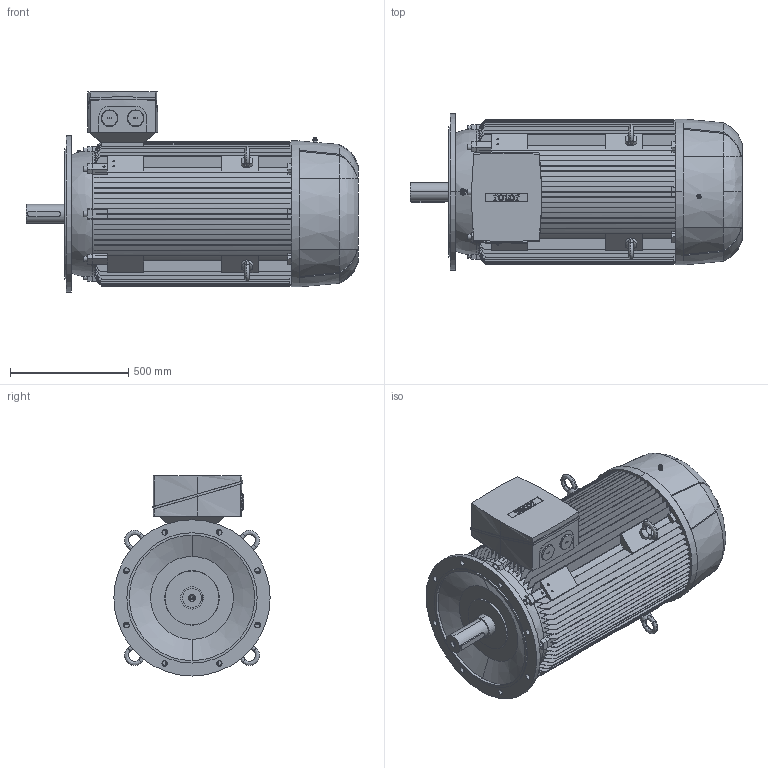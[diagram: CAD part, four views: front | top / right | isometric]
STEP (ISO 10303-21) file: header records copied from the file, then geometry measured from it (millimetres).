
FILE_DESCRIPTION (( 'STEP AP203' ), '1' );
FILE_NAME ('6RN315L06E16 IM3041.STEP', '2017-01-18T10:44:07', ( 'rotor' ), ( 'Hewlett-Packard Company' ), 'SwSTEP 2.0', 'SolidWorks 2015', '' );
FILE_SCHEMA (( 'CONFIG_CONTROL_DESIGN' ));
Length unit declared in the file: millimetre
Products named in the file (1): 6RN315L06E16 IM3041
Bounding box: 1402 x 660 x 845 mm (x, y, z)
Volume: 307648527.4 mm3; surface area: 8679544.2 mm2
Topology: 1 solids, 5 shells, 1212 faces, 3427 edges, 2248 vertices
Faces by surface type: plane 730, bspline 234, cylinder 224, cone 24
Entity records: 46949 total; most frequent: CARTESIAN_POINT 17407, ORIENTED_EDGE 6826, DIRECTION 5237, EDGE_CURVE 3413, VERTEX_POINT 2248, VECTOR 1891, LINE 1891, AXIS2_PLACEMENT_3D 1673
